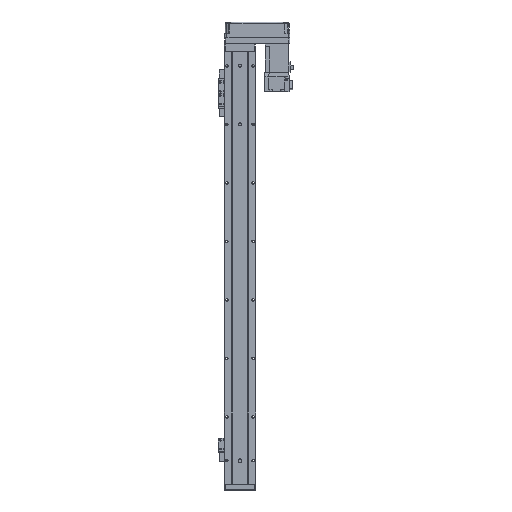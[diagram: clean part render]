
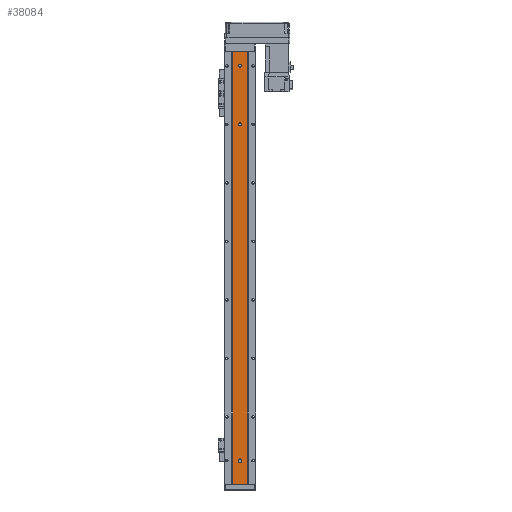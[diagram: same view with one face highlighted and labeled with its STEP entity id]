
A CAD part, front view. The second image highlights one B-rep face of the part: STEP entity #38084.
In plain terms, the highlighted planar face has unit normal (0, -1, 0).
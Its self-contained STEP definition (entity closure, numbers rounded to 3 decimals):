
#255 = FACE_BOUND ( 'NONE', #29955, .T. ) ;
#544 = DIRECTION ( 'NONE',  ( 0., -1., 0. ) ) ;
#875 = CARTESIAN_POINT ( 'NONE',  ( 2.5, 1.5, -699. ) ) ;
#1451 = CARTESIAN_POINT ( 'NONE',  ( 12.293, 1.5, -740. ) ) ;
#1545 = DIRECTION ( 'NONE',  ( 0., -1., 0. ) ) ;
#1638 = EDGE_LOOP ( 'NONE', ( #6834, #30264, #16673, #5509 ) ) ;
#2168 = CARTESIAN_POINT ( 'NONE',  ( 12.293, 1.5, 0. ) ) ;
#2329 = VERTEX_POINT ( 'NONE', #28904 ) ;
#2809 = LINE ( 'NONE', #23211, #33108 ) ;
#3399 = CIRCLE ( 'NONE', #9099, 2.5 ) ;
#3512 = DIRECTION ( 'NONE',  ( 1., 0., 0. ) ) ;
#3622 = ORIENTED_EDGE ( 'NONE', *, *, #27512, .F. ) ;
#3668 = ORIENTED_EDGE ( 'NONE', *, *, #29149, .F. ) ;
#4301 = CARTESIAN_POINT ( 'NONE',  ( 12.293, 1.5, -740. ) ) ;
#4476 = DIRECTION ( 'NONE',  ( 1., 0., 0. ) ) ;
#4689 = CARTESIAN_POINT ( 'NONE',  ( -2.5, 1.5, -25. ) ) ;
#4816 = AXIS2_PLACEMENT_3D ( 'NONE', #15563, #30337, #15944 ) ;
#4927 = ORIENTED_EDGE ( 'NONE', *, *, #23838, .F. ) ;
#4957 = VERTEX_POINT ( 'NONE', #875 ) ;
#5509 = ORIENTED_EDGE ( 'NONE', *, *, #6854, .T. ) ;
#5528 = DIRECTION ( 'NONE',  ( 0., 0., -1. ) ) ;
#5759 = CIRCLE ( 'NONE', #26974, 2.5 ) ;
#5857 = EDGE_CURVE ( 'NONE', #2329, #33570, #10081, .T. ) ;
#5960 = VERTEX_POINT ( 'NONE', #22555 ) ;
#6183 = CARTESIAN_POINT ( 'NONE',  ( 0., 1.5, -699. ) ) ;
#6269 = CIRCLE ( 'NONE', #32214, 2.5 ) ;
#6547 = DIRECTION ( 'NONE',  ( 1., 0., 0. ) ) ;
#6834 = ORIENTED_EDGE ( 'NONE', *, *, #5857, .F. ) ;
#6854 = EDGE_CURVE ( 'NONE', #29207, #33570, #25088, .T. ) ;
#7219 = CARTESIAN_POINT ( 'NONE',  ( -12.293, 1.5, -740. ) ) ;
#7301 = DIRECTION ( 'NONE',  ( 0., -1., 0. ) ) ;
#8057 = FACE_BOUND ( 'NONE', #23143, .T. ) ;
#8214 = ORIENTED_EDGE ( 'NONE', *, *, #25908, .F. ) ;
#8968 = DIRECTION ( 'NONE',  ( 0., -1., 0. ) ) ;
#8974 = CARTESIAN_POINT ( 'NONE',  ( 2.5, 1.5, -25. ) ) ;
#9099 = AXIS2_PLACEMENT_3D ( 'NONE', #29289, #544, #3512 ) ;
#9148 = VECTOR ( 'NONE', #34260, 1000. ) ;
#9575 = CARTESIAN_POINT ( 'NONE',  ( 2.5, 1.5, -740. ) ) ;
#10081 = LINE ( 'NONE', #2168, #9148 ) ;
#11029 = EDGE_CURVE ( 'NONE', #33829, #29207, #26287, .T. ) ;
#11035 = VERTEX_POINT ( 'NONE', #4689 ) ;
#11434 = CIRCLE ( 'NONE', #17268, 2.5 ) ;
#11870 = EDGE_CURVE ( 'NONE', #31377, #31667, #2809, .T. ) ;
#12246 = VERTEX_POINT ( 'NONE', #30905 ) ;
#13089 = FACE_OUTER_BOUND ( 'NONE', #1638, .T. ) ;
#13100 = DIRECTION ( 'NONE',  ( 0., 0., 1. ) ) ;
#13787 = LINE ( 'NONE', #16219, #20662 ) ;
#14302 = VECTOR ( 'NONE', #24840, 1000. ) ;
#14371 = EDGE_CURVE ( 'NONE', #33829, #2329, #13787, .T. ) ;
#15224 = EDGE_CURVE ( 'NONE', #31667, #5960, #6269, .T. ) ;
#15563 = CARTESIAN_POINT ( 'NONE',  ( 12.293, 1.5, -740. ) ) ;
#15831 = DIRECTION ( 'NONE',  ( 0., 0., 1. ) ) ;
#15944 = DIRECTION ( 'NONE',  ( 1., 0., 0. ) ) ;
#15967 = ORIENTED_EDGE ( 'NONE', *, *, #15224, .F. ) ;
#15980 = DIRECTION ( 'NONE',  ( 0., 0., 1. ) ) ;
#16157 = CARTESIAN_POINT ( 'NONE',  ( 0., 1.5, -25. ) ) ;
#16219 = CARTESIAN_POINT ( 'NONE',  ( -12.293, 1.5, -740. ) ) ;
#16410 = CARTESIAN_POINT ( 'NONE',  ( 0., 1.5, -701. ) ) ;
#16548 = DIRECTION ( 'NONE',  ( 1., 0., 0. ) ) ;
#16673 = ORIENTED_EDGE ( 'NONE', *, *, #11029, .T. ) ;
#16726 = CIRCLE ( 'NONE', #19509, 2.5 ) ;
#16921 = DIRECTION ( 'NONE',  ( 1., 0., 0. ) ) ;
#17268 = AXIS2_PLACEMENT_3D ( 'NONE', #16157, #7301, #16921 ) ;
#17317 = VECTOR ( 'NONE', #15980, 1000. ) ;
#19509 = AXIS2_PLACEMENT_3D ( 'NONE', #29789, #8968, #6547 ) ;
#20530 = CARTESIAN_POINT ( 'NONE',  ( -2.5, 1.5, -699. ) ) ;
#20662 = VECTOR ( 'NONE', #15831, 1000. ) ;
#22555 = CARTESIAN_POINT ( 'NONE',  ( 2.5, 1.5, -701. ) ) ;
#23143 = EDGE_LOOP ( 'NONE', ( #3622, #24778 ) ) ;
#23211 = CARTESIAN_POINT ( 'NONE',  ( -2.5, 1.5, -740. ) ) ;
#23576 = AXIS2_PLACEMENT_3D ( 'NONE', #6183, #24013, #32633 ) ;
#23710 = VERTEX_POINT ( 'NONE', #29155 ) ;
#23838 = EDGE_CURVE ( 'NONE', #11035, #25402, #16726, .T. ) ;
#24013 = DIRECTION ( 'NONE',  ( 0., -1., 0. ) ) ;
#24154 = VECTOR ( 'NONE', #13100, 1000. ) ;
#24778 = ORIENTED_EDGE ( 'NONE', *, *, #33192, .F. ) ;
#24840 = DIRECTION ( 'NONE',  ( 1., 0., 0. ) ) ;
#24902 = CARTESIAN_POINT ( 'NONE',  ( 0., 1.5, -125. ) ) ;
#24996 = CARTESIAN_POINT ( 'NONE',  ( 12.293, 1.5, -740. ) ) ;
#25088 = LINE ( 'NONE', #1451, #24154 ) ;
#25131 = EDGE_LOOP ( 'NONE', ( #15967, #37908, #8214, #3668 ) ) ;
#25402 = VERTEX_POINT ( 'NONE', #8974 ) ;
#25908 = EDGE_CURVE ( 'NONE', #4957, #31377, #28404, .T. ) ;
#26287 = LINE ( 'NONE', #4301, #14302 ) ;
#26974 = AXIS2_PLACEMENT_3D ( 'NONE', #24902, #1545, #4476 ) ;
#27377 = FACE_BOUND ( 'NONE', #25131, .T. ) ;
#27512 = EDGE_CURVE ( 'NONE', #23710, #12246, #3399, .T. ) ;
#28404 = CIRCLE ( 'NONE', #23576, 2.5 ) ;
#28904 = CARTESIAN_POINT ( 'NONE',  ( -12.293, 1.5, 0. ) ) ;
#29149 = EDGE_CURVE ( 'NONE', #5960, #4957, #34337, .T. ) ;
#29155 = CARTESIAN_POINT ( 'NONE',  ( 2.5, 1.5, -125. ) ) ;
#29207 = VERTEX_POINT ( 'NONE', #24996 ) ;
#29289 = CARTESIAN_POINT ( 'NONE',  ( 0., 1.5, -125. ) ) ;
#29789 = CARTESIAN_POINT ( 'NONE',  ( 0., 1.5, -25. ) ) ;
#29955 = EDGE_LOOP ( 'NONE', ( #33628, #4927 ) ) ;
#30264 = ORIENTED_EDGE ( 'NONE', *, *, #14371, .F. ) ;
#30337 = DIRECTION ( 'NONE',  ( 0., -1., 0. ) ) ;
#30905 = CARTESIAN_POINT ( 'NONE',  ( -2.5, 1.5, -125. ) ) ;
#31377 = VERTEX_POINT ( 'NONE', #20530 ) ;
#31667 = VERTEX_POINT ( 'NONE', #37602 ) ;
#32214 = AXIS2_PLACEMENT_3D ( 'NONE', #16410, #34172, #16548 ) ;
#32633 = DIRECTION ( 'NONE',  ( 1., 0., 0. ) ) ;
#33108 = VECTOR ( 'NONE', #5528, 1000. ) ;
#33185 = PLANE ( 'NONE',  #4816 ) ;
#33192 = EDGE_CURVE ( 'NONE', #12246, #23710, #5759, .T. ) ;
#33570 = VERTEX_POINT ( 'NONE', #36861 ) ;
#33628 = ORIENTED_EDGE ( 'NONE', *, *, #37116, .F. ) ;
#33829 = VERTEX_POINT ( 'NONE', #7219 ) ;
#34172 = DIRECTION ( 'NONE',  ( 0., -1., 0. ) ) ;
#34260 = DIRECTION ( 'NONE',  ( 1., 0., 0. ) ) ;
#34337 = LINE ( 'NONE', #9575, #17317 ) ;
#36861 = CARTESIAN_POINT ( 'NONE',  ( 12.293, 1.5, 0. ) ) ;
#37116 = EDGE_CURVE ( 'NONE', #25402, #11035, #11434, .T. ) ;
#37602 = CARTESIAN_POINT ( 'NONE',  ( -2.5, 1.5, -701. ) ) ;
#37908 = ORIENTED_EDGE ( 'NONE', *, *, #11870, .F. ) ;
#38084 = ADVANCED_FACE ( 'NONE', ( #27377, #8057, #255, #13089 ), #33185, .T. ) ;
